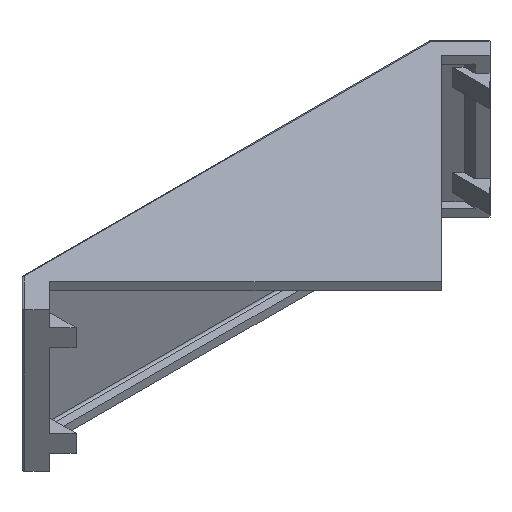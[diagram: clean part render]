
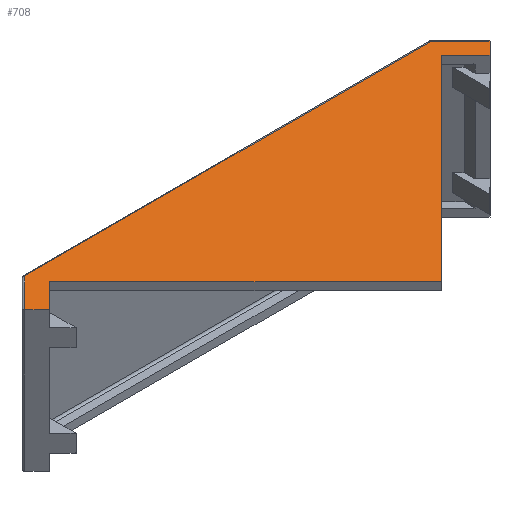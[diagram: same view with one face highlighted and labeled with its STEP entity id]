
A CAD part, isometric view. The second image highlights one B-rep face of the part: STEP entity #708.
In plain terms, the highlighted planar face has unit normal (0, 0, 1).
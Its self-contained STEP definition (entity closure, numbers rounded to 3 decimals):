
#108 = VERTEX_POINT ( 'NONE', #535 ) ;
#154 = VECTOR ( 'NONE', #1571, 1000. ) ;
#162 = FACE_OUTER_BOUND ( 'NONE', #1029, .T. ) ;
#195 = EDGE_CURVE ( 'NONE', #370, #1009, #1720, .T. ) ;
#250 = ORIENTED_EDGE ( 'NONE', *, *, #644, .T. ) ;
#284 = LINE ( 'NONE', #1103, #486 ) ;
#313 = VERTEX_POINT ( 'NONE', #1234 ) ;
#318 = DIRECTION ( 'NONE',  ( 1., 0., 0. ) ) ;
#332 = VERTEX_POINT ( 'NONE', #1388 ) ;
#356 = CARTESIAN_POINT ( 'NONE',  ( -69.787, 0.063, 36. ) ) ;
#367 = ORIENTED_EDGE ( 'NONE', *, *, #1767, .T. ) ;
#368 = DIRECTION ( 'NONE',  ( 0.707, 0.707, 0. ) ) ;
#370 = VERTEX_POINT ( 'NONE', #1673 ) ;
#387 = LINE ( 'NONE', #948, #405 ) ;
#398 = CARTESIAN_POINT ( 'NONE',  ( 46.739, -3.119, 36. ) ) ;
#405 = VECTOR ( 'NONE', #1506, 1000. ) ;
#421 = ORIENTED_EDGE ( 'NONE', *, *, #1572, .T. ) ;
#432 = CARTESIAN_POINT ( 'NONE',  ( 42.213, 7.77, 36. ) ) ;
#451 = LINE ( 'NONE', #1565, #1232 ) ;
#486 = VECTOR ( 'NONE', #851, 1000. ) ;
#517 = VECTOR ( 'NONE', #739, 1000. ) ;
#535 = CARTESIAN_POINT ( 'NONE',  ( -62.226, 7.624, 36. ) ) ;
#584 = VERTEX_POINT ( 'NONE', #1746 ) ;
#591 = VERTEX_POINT ( 'NONE', #398 ) ;
#593 = DIRECTION ( 'NONE',  ( 0.707, -0.707, 0. ) ) ;
#644 = EDGE_CURVE ( 'NONE', #778, #332, #989, .T. ) ;
#649 = CARTESIAN_POINT ( 'NONE',  ( 40.496, 3.124, 36. ) ) ;
#673 = ORIENTED_EDGE ( 'NONE', *, *, #769, .T. ) ;
#708 = ADVANCED_FACE ( 'NONE', ( #162 ), #1273, .T. ) ;
#735 = ORIENTED_EDGE ( 'NONE', *, *, #1395, .T. ) ;
#739 = DIRECTION ( 'NONE',  ( 0.707, -0.707, 0. ) ) ;
#765 = VERTEX_POINT ( 'NONE', #356 ) ;
#769 = EDGE_CURVE ( 'NONE', #313, #370, #1642, .T. ) ;
#778 = VERTEX_POINT ( 'NONE', #960 ) ;
#787 = CARTESIAN_POINT ( 'NONE',  ( -9.933, -47.305, 36. ) ) ;
#806 = CARTESIAN_POINT ( 'NONE',  ( 40.496, 3.124, 36. ) ) ;
#851 = DIRECTION ( 'NONE',  ( -0.707, -0.707, 0. ) ) ;
#860 = CARTESIAN_POINT ( 'NONE',  ( 0., 0., 36. ) ) ;
#898 = CARTESIAN_POINT ( 'NONE',  ( 46.81, -3.19, 36. ) ) ;
#909 = DIRECTION ( 'NONE',  ( 0.707, -0.707, 0. ) ) ;
#948 = CARTESIAN_POINT ( 'NONE',  ( -62.433, 7.624, 36. ) ) ;
#960 = CARTESIAN_POINT ( 'NONE',  ( 49.921, 0.063, 36. ) ) ;
#961 = VECTOR ( 'NONE', #909, 1000. ) ;
#982 = ORIENTED_EDGE ( 'NONE', *, *, #1332, .T. ) ;
#989 = LINE ( 'NONE', #432, #1287 ) ;
#1009 = VERTEX_POINT ( 'NONE', #806 ) ;
#1029 = EDGE_LOOP ( 'NONE', ( #1598, #250, #421, #1529, #982, #367, #673, #1674, #735 ) ) ;
#1040 = LINE ( 'NONE', #898, #1749 ) ;
#1103 = CARTESIAN_POINT ( 'NONE',  ( -69.787, 0.063, 36. ) ) ;
#1169 = CARTESIAN_POINT ( 'NONE',  ( -34.862, -34.862, 36. ) ) ;
#1176 = DIRECTION ( 'NONE',  ( -0.707, -0.707, 0. ) ) ;
#1179 = LINE ( 'NONE', #1169, #517 ) ;
#1232 = VECTOR ( 'NONE', #1176, 1000. ) ;
#1234 = CARTESIAN_POINT ( 'NONE',  ( -60.362, 3.124, 36. ) ) ;
#1273 = PLANE ( 'NONE',  #1597 ) ;
#1287 = VECTOR ( 'NONE', #1555, 1000. ) ;
#1332 = EDGE_CURVE ( 'NONE', #765, #584, #1179, .T. ) ;
#1388 = CARTESIAN_POINT ( 'NONE',  ( 42.36, 7.624, 36. ) ) ;
#1395 = EDGE_CURVE ( 'NONE', #1009, #591, #1040, .T. ) ;
#1424 = LINE ( 'NONE', #1719, #154 ) ;
#1506 = DIRECTION ( 'NONE',  ( -1., 0., 0. ) ) ;
#1529 = ORIENTED_EDGE ( 'NONE', *, *, #1592, .T. ) ;
#1555 = DIRECTION ( 'NONE',  ( -0.707, 0.707, 0. ) ) ;
#1565 = CARTESIAN_POINT ( 'NONE',  ( 24.929, -24.929, 36. ) ) ;
#1571 = DIRECTION ( 'NONE',  ( 0.707, 0.707, 0. ) ) ;
#1572 = EDGE_CURVE ( 'NONE', #332, #108, #387, .T. ) ;
#1592 = EDGE_CURVE ( 'NONE', #108, #765, #284, .T. ) ;
#1597 = AXIS2_PLACEMENT_3D ( 'NONE', #860, #1707, #318 ) ;
#1598 = ORIENTED_EDGE ( 'NONE', *, *, #1760, .F. ) ;
#1642 = LINE ( 'NONE', #787, #961 ) ;
#1644 = VECTOR ( 'NONE', #368, 1000. ) ;
#1673 = CARTESIAN_POINT ( 'NONE',  ( -9.933, -47.305, 36. ) ) ;
#1674 = ORIENTED_EDGE ( 'NONE', *, *, #195, .T. ) ;
#1707 = DIRECTION ( 'NONE',  ( 0., 0., 1. ) ) ;
#1719 = CARTESIAN_POINT ( 'NONE',  ( -66.676, -3.19, 36. ) ) ;
#1720 = LINE ( 'NONE', #649, #1644 ) ;
#1746 = CARTESIAN_POINT ( 'NONE',  ( -66.605, -3.119, 36. ) ) ;
#1749 = VECTOR ( 'NONE', #593, 1000. ) ;
#1760 = EDGE_CURVE ( 'NONE', #778, #591, #451, .T. ) ;
#1767 = EDGE_CURVE ( 'NONE', #584, #313, #1424, .T. ) ;
